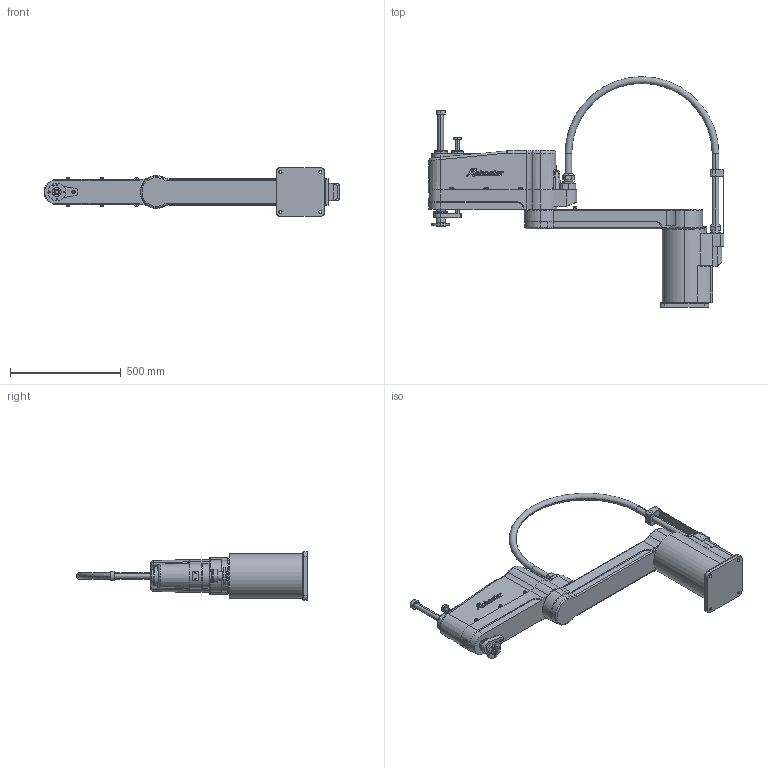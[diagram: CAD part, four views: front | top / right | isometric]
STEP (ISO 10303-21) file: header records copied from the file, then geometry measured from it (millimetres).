
FILE_DESCRIPTION (( 'STEP AP203' ), '1' );
FILE_NAME ('RPA110-4B(寇何).STEP', '2021-05-18T01:05:28', ( '唱侩褥' ), ( '' ), 'SwSTEP 2.0', 'SolidWorks 2017', '' );
FILE_SCHEMA (( 'CONFIG_CONTROL_DESIGN' ));
Length unit declared in the file: millimetre
Products named in the file (6): RPA110-4B(諼睡); BNS2525_200ST_Shaft_RBSA100-4B(諼睡)_晦獄 撲薑; Base_RPA110-4B(諼睡)_晦獄 撲薑; A_Arm_RBSA110-4B(諼睡)_晦獄 撲薑; B_Arm_RPA110-4B(諼睡)_晦獄 撲薑; Cable_RPA110-4B(諼睡)_晦獄 撲薑
Assembly tree (5 placements, depth 2):
  RPA110-4B(諼睡)
    Base_RPA110-4B(諼睡)_晦獄 撲薑
    A_Arm_RBSA110-4B(諼睡)_晦獄 撲薑
    B_Arm_RPA110-4B(諼睡)_晦獄 撲薑
    Cable_RPA110-4B(諼睡)_晦獄 撲薑
    BNS2525_200ST_Shaft_RBSA100-4B(諼睡)_晦獄 撲薑
Bounding box: 1335.2 x 1041.25 x 220 mm (x, y, z)
Volume: 39747120 mm3; surface area: 1701063.3 mm2
Topology: 11 solids, 12 shells, 1634 faces, 4433 edges, 2884 vertices
Faces by surface type: plane 1224, cylinder 264, torus 80, bspline 36, cone 30
Entity records: 53416 total; most frequent: CARTESIAN_POINT 11475, ORIENTED_EDGE 8850, DIRECTION 8166, EDGE_CURVE 4425, LINE 3614, VECTOR 3614, VERTEX_POINT 2884, AXIS2_PLACEMENT_3D 2276
